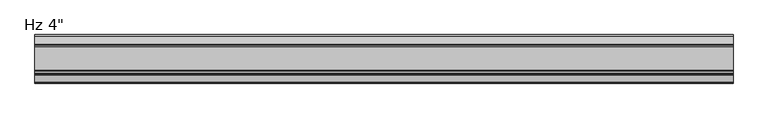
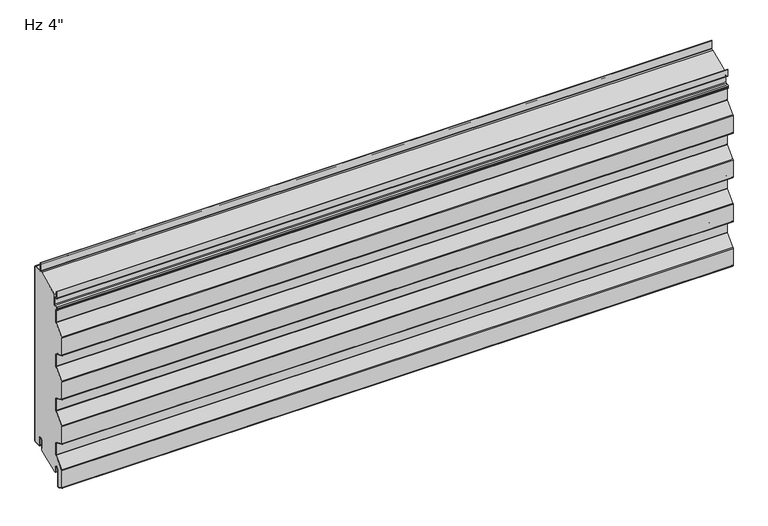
"""IFC4 building model written with IfcOpenShell, lengths in millimetres: plate geometry."""

import ifcopenshell
import ifcopenshell.guid

model = None  # the IFC model being written
_history = None  # IfcOwnerHistory: only IFC2X3 demands one
_inside = {}  # id of a spatial element -> (the spatial element, [elements in it])
_under = {}  # id of a project, library or spatial element -> (it, [spatial elements below it])
_declared = {}  # id of a project -> (the project, [libraries it declares])
_typed = {}  # id of a type object -> (the type object, [elements of that type])
_made_of = {}  # id of a material, layer set ... -> (it, [elements and type objects made of it])


def new_model(schema):
    """Start an empty IFC model of exactly this schema.

    Asked for "IFC4X3", IfcOpenShell would pick the latest addendum, in which some entities
    have other attributes; the version numbers below select the first issue.
    IFC2X3 requires an IfcOwnerHistory on every rooted entity: one is made here for all.
    """
    global model, _history
    if schema == "IFC4X3":
        model = ifcopenshell.file(schema_version=(4, 3, 0, 0))
    else:
        model = ifcopenshell.file(schema=schema)
    _inside.clear()
    _under.clear()
    _declared.clear()
    _typed.clear()
    _made_of.clear()
    _history = None
    if model.schema == "IFC2X3":
        org = make("IfcOrganization", Name="unknown")
        user = make(
            "IfcPersonAndOrganization",
            ThePerson=make("IfcPerson", FamilyName="unknown"),
            TheOrganization=org,
        )
        app = make(
            "IfcApplication",
            ApplicationDeveloper=org,
            Version="unknown",
            ApplicationFullName="unknown",
            ApplicationIdentifier="unknown",
        )
        _history = make(
            "IfcOwnerHistory",
            OwningUser=user,
            OwningApplication=app,
            ChangeAction="ADDED",
            CreationDate=0,
        )
    return model


def make(cls, **values):
    """One entity of the class cls with the attributes given. An attribute that is None is left unset."""
    return model.create_entity(
        cls, **{name: value for name, value in values.items() if value is not None}
    )


def rooted(cls, **values):
    """An entity with a GlobalId (a new one), such as an element, a storey or a relation."""
    return make(cls, GlobalId=ifcopenshell.guid.new(), OwnerHistory=_history, **values)


def si_unit(unit_type, name, prefix=None):
    """IfcSIUnit, for example si_unit("LENGTHUNIT", "METRE", prefix="MILLI")."""
    return make("IfcSIUnit", UnitType=unit_type, Prefix=prefix, Name=name)


def assignment(units):
    """IfcUnitAssignment: the units of a project."""
    return None if units is None else make("IfcUnitAssignment", Units=units)


def point(xyz):
    """IfcCartesianPoint."""
    return None if xyz is None else make("IfcCartesianPoint", Coordinates=xyz)


def direction(xyz):
    """IfcDirection."""
    return None if xyz is None else make("IfcDirection", DirectionRatios=xyz)


def frame(location, z_axis=None, x_axis=None):
    """IfcAxis2Placement3D, a coordinate frame: its origin and axes. An axis left out is left unset."""
    return make(
        "IfcAxis2Placement3D",
        Location=point(location),
        Axis=direction(z_axis),
        RefDirection=direction(x_axis),
    )


def frame_2d(location, x_axis=None):
    """IfcAxis2Placement2D, a coordinate frame in the plane: its origin and x axis."""
    return make(
        "IfcAxis2Placement2D", Location=point(location), RefDirection=direction(x_axis)
    )


def origin():
    """The frame at (0, 0, 0) with its axes left unset."""
    return frame((0.0, 0.0, 0.0))


def place(relative_to, where):
    """IfcLocalPlacement: puts the frame where relative to a parent placement (None: the world)."""
    return make(
        "IfcLocalPlacement", PlacementRelTo=relative_to, RelativePlacement=where
    )


def context(
    kind, dimensions, precision=None, world=None, true_north=None, identifier=None
):
    """IfcGeometricRepresentationContext, for example the 3D "Model" context."""
    return make(
        "IfcGeometricRepresentationContext",
        ContextIdentifier=identifier,
        ContextType=kind,
        CoordinateSpaceDimension=dimensions,
        Precision=precision,
        WorldCoordinateSystem=world,
        TrueNorth=true_north,
    )


def project(units=None, contexts=None):
    """IfcProject with its units and contexts."""
    return rooted(
        "IfcProject",
        Name="project",
        RepresentationContexts=contexts,
        UnitsInContext=assignment(units),
    )


def spatial(cls, under=None, at=None, **own):
    """A site, building, storey or space (cls), placed at a placement, below another one or the project."""
    s = rooted(cls, ObjectPlacement=at, **own)
    if under is not None:
        _under.setdefault(under.id(), (under, []))[1].append(s)
    return s


def polyline(points):
    """IfcPolyline through the points."""
    return make("IfcPolyline", Points=[point(p) for p in points])


def circle_curve(where, radius):
    """IfcCircle in the frame where."""
    return make("IfcCircle", Position=where, Radius=radius)


def trimmed(basis, trim1, trim2, sense, master):
    """IfcTrimmedCurve: the piece of a basis curve between two trims."""
    return make(
        "IfcTrimmedCurve",
        BasisCurve=basis,
        Trim1=trim1,
        Trim2=trim2,
        SenseAgreement=sense,
        MasterRepresentation=master,
    )


def segment(curve, same_sense, transition):
    """IfcCompositeCurveSegment."""
    return make(
        "IfcCompositeCurveSegment",
        Transition=transition,
        SameSense=same_sense,
        ParentCurve=curve,
    )


def composite_curve(segments, self_intersect=None):
    """IfcCompositeCurve: segments joined end to end."""
    return make("IfcCompositeCurve", Segments=segments, SelfIntersect=self_intersect)


def outline(outer, holes=None, kind="AREA"):
    """IfcArbitraryClosedProfileDef: a profile drawn as a closed curve; with holes, ...WithVoids."""
    if holes is None:
        return make("IfcArbitraryClosedProfileDef", ProfileType=kind, OuterCurve=outer)
    return make(
        "IfcArbitraryProfileDefWithVoids",
        ProfileType=kind,
        OuterCurve=outer,
        InnerCurves=holes,
    )


def extrude(swept, where, along, depth):
    """IfcExtrudedAreaSolid: the profile swept, set in the frame where, extruded along a direction by depth."""
    return make(
        "IfcExtrudedAreaSolid",
        SweptArea=swept,
        Position=where,
        ExtrudedDirection=direction(along),
        Depth=depth,
    )


def shape(context_of_items, identifier, shape_type, items):
    """IfcShapeRepresentation: the items that make up one representation, for example the "Body"."""
    return make(
        "IfcShapeRepresentation",
        ContextOfItems=context_of_items,
        RepresentationIdentifier=identifier,
        RepresentationType=shape_type,
        Items=items,
    )


def source(mapping_origin, context_of_items, identifier, shape_type, items):
    """IfcRepresentationMap: a shape defined once, which mapped items show again and again."""
    return make(
        "IfcRepresentationMap",
        MappingOrigin=mapping_origin,
        MappedRepresentation=shape(context_of_items, identifier, shape_type, items),
    )


def transform(
    local_origin,
    x_axis=None,
    y_axis=None,
    z_axis=None,
    scale=None,
    scale2=None,
    scale3=None,
    uniform=True,
):
    """IfcCartesianTransformationOperator3D, or its non-uniform kind. x_axis, y_axis, z_axis: its Axis1, 2, 3."""
    if uniform:
        return make(
            "IfcCartesianTransformationOperator3D",
            Axis1=direction(x_axis),
            Axis2=direction(y_axis),
            LocalOrigin=point(local_origin),
            Scale=scale,
            Axis3=direction(z_axis),
        )
    return make(
        "IfcCartesianTransformationOperator3DnonUniform",
        Axis1=direction(x_axis),
        Axis2=direction(y_axis),
        LocalOrigin=point(local_origin),
        Scale=scale,
        Axis3=direction(z_axis),
        Scale2=scale2,
        Scale3=scale3,
    )


def mapped(mapping_source, mapping_target):
    """IfcMappedItem: shows the shape of a source again, moved by a transform."""
    return make(
        "IfcMappedItem", MappingSource=mapping_source, MappingTarget=mapping_target
    )


def made_of(thing, what):
    """Note that an element or type object is made of a material, layer set ...; save() writes the relation."""
    if what is not None:
        _made_of.setdefault(what.id(), (what, []))[1].append(thing)
    return thing


def element(
    cls,
    number,
    at=None,
    inside=None,
    cuts=None,
    type_object=None,
    material=None,
    context=None,
    identifier="Body",
    shape_type=None,
    held_by="IfcProductDefinitionShape",
    body=None,
    shapes=None,
    **own,
):
    """One element of the class cls, such as IfcWall. Its Tag is "e" and its number.

    at: its placement. inside: the storey or other place that contains it. cuts: it is an
    opening in that element (IfcRelVoidsElement). A single representation is given by context,
    identifier, shape_type and body (its items); several are given by shapes. held_by: the class
    of the entity that holds the representations. save() writes the other relations.
    """
    e = rooted(cls, Tag="e%d" % number, ObjectPlacement=at, **own)
    if body is not None:
        shapes = [shape(context, identifier, shape_type, body)]
    if shapes is not None:
        e.Representation = make(held_by, Representations=shapes)
    if inside is not None:
        _inside.setdefault(inside.id(), (inside, []))[1].append(e)
    if cuts is not None:
        rooted(
            "IfcRelVoidsElement", RelatingBuildingElement=cuts, RelatedOpeningElement=e
        )
    if type_object is not None:
        _typed.setdefault(type_object.id(), (type_object, []))[1].append(e)
    return made_of(e, material)


def aggregate(whole, parts):
    """IfcRelAggregates: a whole, such as a stair, and the parts it consists of."""
    return rooted("IfcRelAggregates", RelatingObject=whole, RelatedObjects=parts)


def save(model, path):
    """Write the relations noted so far, then the file.

    IfcRelAggregates (storeys below a building ...), IfcRelContainedInSpatialStructure (elements
    in a storey), IfcRelDefinesByType, IfcRelAssociatesMaterial and IfcRelDeclares: one each for
    every whole, place, type object, material and project.
    """
    for whole, parts in _under.values():
        aggregate(whole, parts)
    for where, things in _inside.values():
        rooted(
            "IfcRelContainedInSpatialStructure",
            RelatedElements=things,
            RelatingStructure=where,
        )
    for kind, things in _typed.values():
        rooted("IfcRelDefinesByType", RelatedObjects=things, RelatingType=kind)
    for what, things in _made_of.values():
        rooted("IfcRelAssociatesMaterial", RelatedObjects=things, RelatingMaterial=what)
    for by, libraries in _declared.values():
        rooted("IfcRelDeclares", RelatingContext=by, RelatedDefinitions=libraries)
    model.write(path)


def plate_303e1e0d(model_context):
    return source(origin(), model_context, "Body", "SweptSolid", [
        extrude(outline(composite_curve([segment(polyline([(-26.4011912, 19.05), (-26.4011912, -3.1976612), (-74.633822, -23.01875), (-76.7886912, -23.01875), (-76.7886912, -11.90625)]), True, "CONTINUOUS"), segment(trimmed(circle_curve(frame_2d((-81.7574412, -11.90625)), 4.96875), [point((-76.7886912, -11.90625))], [point((-86.7261912, -11.90625))], True, "CARTESIAN"), True, "CONTINUOUS"), segment(polyline([(-86.7261912, -11.90625), (-86.7261912, -48.8194049)]), True, "CONTINUOUS"), segment(trimmed(circle_curve(frame_2d((-88.1074412, -48.8194049)), 1.38125), [point((-86.7261912, -48.8194049))], [point((-88.6666208, -50.0824052))], False, "CARTESIAN"), True, "CONTINUOUS"), segment(polyline([(-88.6666208, -50.0824052), (-99.7779296, -45.1629946)]), True, "CONTINUOUS"), segment(trimmed(circle_curve(frame_2d((-99.21875, -43.8999943)), 1.38125), [point((-99.7779296, -45.1629946))], [point((-100.6, -43.8999943))], False, "CARTESIAN"), True, "CONTINUOUS"), segment(polyline([(-100.6, -43.8999943), (-100.6, -5.0536946)]), True, "CONTINUOUS"), segment(trimmed(circle_curve(frame_2d((-98.5012, -5.0536946)), 2.0988), [point((-100.6, -5.0536946))], [point((-100.0092077, -3.5939431))], False, "CARTESIAN"), True, "CONTINUOUS"), segment(polyline([(-100.0092077, -3.5939431), (-79.8145567, 17.2682996)]), True, "CONTINUOUS"), segment(trimmed(circle_curve(frame_2d((-81.6737, 19.0679503)), 2.5875), [point((-79.8145567, 17.2682996))], [point((-79.0862, 19.0679503))], True, "CARTESIAN"), True, "CONTINUOUS"), segment(polyline([(-79.0862, 19.0679503), (-79.0862, 45.5917981)]), True, "CONTINUOUS"), segment(trimmed(circle_curve(frame_2d((-81.6737, 45.5917981)), 2.5875), [point((-79.0862, 45.5917981))], [point((-80.6261871, 47.9577806))], True, "CARTESIAN"), True, "CONTINUOUS"), segment(polyline([(-80.6261871, 47.9577806), (-99.7779296, 56.4370054)]), True, "CONTINUOUS"), segment(trimmed(circle_curve(frame_2d((-99.21875, 57.7000057)), 1.38125), [point((-99.7779296, 56.4370054))], [point((-100.6, 57.7000057))], False, "CARTESIAN"), True, "CONTINUOUS"), segment(polyline([(-100.6, 57.7000057), (-100.6, 96.8367131)]), True, "CONTINUOUS"), segment(trimmed(circle_curve(frame_2d((-99.21875, 96.8367131)), 1.38125), [point((-100.6, 96.8367131))], [point((-100.2111912, 97.7973962))], False, "CARTESIAN"), True, "CONTINUOUS"), segment(polyline([(-100.2111912, 97.7973962), (-79.8145567, 118.8682996)]), True, "CONTINUOUS"), segment(trimmed(circle_curve(frame_2d((-81.6737, 120.6679503)), 2.5875), [point((-79.8145567, 118.8682996))], [point((-79.0862, 120.6679503))], True, "CARTESIAN"), True, "CONTINUOUS"), segment(polyline([(-79.0862, 120.6679503), (-79.0862, 147.1917981)]), True, "CONTINUOUS"), segment(trimmed(circle_curve(frame_2d((-81.6737, 147.1917981)), 2.5875), [point((-79.0862, 147.1917981))], [point((-80.6261871, 149.5577806))], True, "CARTESIAN"), True, "CONTINUOUS"), segment(polyline([(-80.6261871, 149.5577806), (-99.7779296, 158.0370054)]), True, "CONTINUOUS"), segment(trimmed(circle_curve(frame_2d((-99.21875, 159.3000057)), 1.38125), [point((-99.7779296, 158.0370054))], [point((-100.6, 159.3000057))], False, "CARTESIAN"), True, "CONTINUOUS"), segment(polyline([(-100.6, 159.3000057), (-100.6, 198.4367131)]), True, "CONTINUOUS"), segment(trimmed(circle_curve(frame_2d((-99.21875, 198.4367131)), 1.38125), [point((-100.6, 198.4367131))], [point((-100.2111912, 199.3973962))], False, "CARTESIAN"), True, "CONTINUOUS"), segment(polyline([(-100.2111912, 199.3973962), (-79.8145567, 220.4682996)]), True, "CONTINUOUS"), segment(trimmed(circle_curve(frame_2d((-81.6737, 222.2679503)), 2.5875), [point((-79.8145567, 220.4682996))], [point((-79.0862, 222.2679503))], True, "CARTESIAN"), True, "CONTINUOUS"), segment(polyline([(-79.0862, 222.2679503), (-79.0862, 248.7917981)]), True, "CONTINUOUS"), segment(trimmed(circle_curve(frame_2d((-81.6737, 248.7917981)), 2.5875), [point((-79.0862, 248.7917981))], [point((-80.6261871, 251.1577806))], True, "CARTESIAN"), True, "CONTINUOUS"), segment(polyline([(-80.6261871, 251.1577806), (-99.7779296, 259.6370054)]), True, "CONTINUOUS"), segment(trimmed(circle_curve(frame_2d((-99.21875, 260.9000057)), 1.38125), [point((-99.7779296, 259.6370054))], [point((-100.6, 260.9000057))], False, "CARTESIAN"), True, "CONTINUOUS"), segment(polyline([(-100.6, 260.9000057), (-100.6, 300.0367131)]), True, "CONTINUOUS"), segment(trimmed(circle_curve(frame_2d((-99.21875, 300.0367131)), 1.38125), [point((-100.6, 300.0367131))], [point((-100.2111912, 300.9973962))], False, "CARTESIAN"), True, "CONTINUOUS"), segment(polyline([(-100.2111912, 300.9973962), (-79.8145567, 322.0682996)]), True, "CONTINUOUS"), segment(trimmed(circle_curve(frame_2d((-81.6737, 323.8679503)), 2.5875), [point((-79.8145567, 322.0682996))], [point((-79.0862, 323.8679503))], True, "CARTESIAN"), True, "CONTINUOUS"), segment(polyline([(-79.0862, 323.8679503), (-79.0862, 350.3917981)]), True, "CONTINUOUS"), segment(trimmed(circle_curve(frame_2d((-81.6737, 350.3917981)), 2.5875), [point((-79.0862, 350.3917981))], [point((-80.6261871, 352.7577806))], True, "CARTESIAN"), True, "CONTINUOUS"), segment(polyline([(-80.6261871, 352.7577806), (-82.3166208, 353.5062016)]), True, "CONTINUOUS"), segment(trimmed(circle_curve(frame_2d((-81.7574412, 354.7692019)), 1.38125), [point((-82.3166208, 353.5062016))], [point((-83.1386912, 354.7692019))], False, "CARTESIAN"), True, "CONTINUOUS"), segment(polyline([(-83.1386912, 354.7692019), (-83.1386912, 357.0967085)]), True, "CONTINUOUS"), segment(trimmed(circle_curve(frame_2d((-81.7574412, 357.0967085)), 1.38125), [point((-83.1386912, 357.0967085))], [point((-81.8297302, 358.4760655))], False, "CARTESIAN"), True, "CONTINUOUS"), segment(polyline([(-81.8297302, 358.4760655), (-76.0657719, 358.7781418)]), True, "CONTINUOUS"), segment(trimmed(circle_curve(frame_2d((-76.2011912, 361.3620957)), 2.5875), [point((-76.0657719, 358.7781418))], [point((-73.6136912, 361.3620957))], True, "CARTESIAN"), True, "CONTINUOUS"), segment(polyline([(-73.6136912, 361.3620957), (-73.6136912, 383.7892934), (-24.8719682, 404.60625), (-2.3824412, 404.60625)]), True, "CONTINUOUS"), segment(trimmed(circle_curve(frame_2d((-2.3824412, 403.225)), 1.38125), [point((-2.3824412, 404.60625))], [point((-1.0011912, 403.225))], False, "CARTESIAN"), True, "CONTINUOUS"), segment(polyline([(-1.0011912, 403.225), (-1.0011912, 3.175)]), True, "CONTINUOUS"), segment(trimmed(circle_curve(frame_2d((-2.3824412, 3.175)), 1.38125), [point((-1.0011912, 3.175))], [point((-2.3824412, 1.79375))], False, "CARTESIAN"), True, "CONTINUOUS"), segment(polyline([(-2.3824412, 1.79375), (-15.0824412, 1.79375)]), True, "CONTINUOUS"), segment(trimmed(circle_curve(frame_2d((-15.0824412, 3.175)), 1.38125), [point((-15.0824412, 1.79375))], [point((-16.4636912, 3.175))], False, "CARTESIAN"), True, "CONTINUOUS"), segment(polyline([(-16.4636912, 3.175), (-16.4636912, 19.05)]), True, "CONTINUOUS"), segment(trimmed(circle_curve(frame_2d((-21.4324412, 19.05)), 4.96875), [point((-16.4636912, 19.05))], [point((-26.4011912, 19.05))], True, "CARTESIAN"), True, "CONTINUOUS")], self_intersect=False)), frame((-730.0, 0.0, 0.0), z_axis=(1.0, 0.0, 0.0), x_axis=(0.0, 1.0, 0.0)), (0.0, 0.0, 1.0), 1460.0),
        extrude(outline(composite_curve([segment(polyline([(-25.4, 0.79375), (-26.4, 0.79375), (-26.4, 19.05)]), True, "CONTINUOUS"), segment(trimmed(circle_curve(frame_2d((-21.43125, 19.05)), 4.96875), [point((-26.4, 19.05))], [point((-16.4625, 19.05))], False, "CARTESIAN"), True, "CONTINUOUS"), segment(polyline([(-16.4625, 19.05), (-16.4625, 3.175)]), True, "CONTINUOUS"), segment(trimmed(circle_curve(frame_2d((-15.08125, 3.175)), 1.38125), [point((-16.4625, 3.175))], [point((-15.08125, 1.79375))], True, "CARTESIAN"), True, "CONTINUOUS"), segment(polyline([(-15.08125, 1.79375), (-2.38125, 1.79375)]), True, "CONTINUOUS"), segment(trimmed(circle_curve(frame_2d((-2.38125, 3.175)), 1.38125), [point((-2.38125, 1.79375))], [point((-1.0, 3.175))], True, "CARTESIAN"), True, "CONTINUOUS"), segment(polyline([(-1.0, 3.175), (-1.0, 403.225)]), True, "CONTINUOUS"), segment(trimmed(circle_curve(frame_2d((-2.38125, 403.225)), 1.38125), [point((-1.0, 403.225))], [point((-2.38125, 404.60625))], True, "CARTESIAN"), True, "CONTINUOUS"), segment(polyline([(-2.38125, 404.60625), (-19.446875, 404.60625)]), True, "CONTINUOUS"), segment(trimmed(circle_curve(frame_2d((-19.446875, 407.19375)), 2.5875), [point((-19.446875, 404.60625))], [point((-22.034375, 407.19375))], False, "CARTESIAN"), True, "CONTINUOUS"), segment(polyline([(-22.034375, 407.19375), (-22.034375, 424.65625), (-21.034375, 424.65625), (-21.034375, 407.19375)]), True, "CONTINUOUS"), segment(trimmed(circle_curve(frame_2d((-19.446875, 407.19375)), 1.5875), [point((-21.034375, 407.19375))], [point((-19.446875, 405.60625))], True, "CARTESIAN"), True, "CONTINUOUS"), segment(polyline([(-19.446875, 405.60625), (-2.38125, 405.60625)]), True, "CONTINUOUS"), segment(trimmed(circle_curve(frame_2d((-2.38125, 403.225)), 2.38125), [point((-2.38125, 405.60625))], [point((0.0, 403.225))], False, "CARTESIAN"), True, "CONTINUOUS"), segment(polyline([(0.0, 403.225), (0.0, 3.175)]), True, "CONTINUOUS"), segment(trimmed(circle_curve(frame_2d((-2.38125, 3.175)), 2.38125), [point((0.0, 3.175))], [point((-2.38125, 0.79375))], False, "CARTESIAN"), True, "CONTINUOUS"), segment(polyline([(-2.38125, 0.79375), (-15.08125, 0.79375)]), True, "CONTINUOUS"), segment(trimmed(circle_curve(frame_2d((-15.08125, 3.175)), 2.38125), [point((-15.08125, 0.79375))], [point((-17.4625, 3.175))], False, "CARTESIAN"), True, "CONTINUOUS"), segment(polyline([(-17.4625, 3.175), (-17.4625, 19.05)]), True, "CONTINUOUS"), segment(trimmed(circle_curve(frame_2d((-21.43125, 19.05)), 3.96875), [point((-17.4625, 19.05))], [point((-25.4, 19.05))], True, "CARTESIAN"), True, "CONTINUOUS"), segment(polyline([(-25.4, 19.05), (-25.4, 0.79375)]), True, "CONTINUOUS")], self_intersect=False)), frame((-730.0, 0.0, 0.0), z_axis=(1.0, 0.0, 0.0), x_axis=(0.0, 1.0, 0.0)), (0.0, 0.0, 1.0), 1460.0),
        extrude(outline(composite_curve([segment(polyline([(-85.7261912, -11.90625), (-85.7261912, -48.8194049)]), True, "CONTINUOUS"), segment(trimmed(circle_curve(frame_2d((-88.1074412, -48.8194049)), 2.38125), [point((-85.7261912, -48.8194049))], [point((-89.0714567, -50.9967946))], False, "CARTESIAN"), True, "CONTINUOUS"), segment(polyline([(-89.0714567, -50.9967946), (-100.1827655, -46.0773839)]), True, "CONTINUOUS"), segment(trimmed(circle_curve(frame_2d((-99.21875, -43.8999943)), 2.38125), [point((-100.1827655, -46.0773839))], [point((-101.6, -43.8999943))], False, "CARTESIAN"), True, "CONTINUOUS"), segment(polyline([(-101.6, -43.8999943), (-101.6, -5.0536946)]), True, "CONTINUOUS"), segment(trimmed(circle_curve(frame_2d((-98.5012, -5.0536946)), 3.0988), [point((-101.6, -5.0536946))], [point((-100.7277172, -2.8984259))], False, "CARTESIAN"), True, "CONTINUOUS"), segment(polyline([(-100.7277172, -2.8984259), (-80.5330662, 17.9638168)]), True, "CONTINUOUS"), segment(trimmed(circle_curve(frame_2d((-81.6737, 19.0679503)), 1.5875), [point((-80.5330662, 17.9638168))], [point((-80.0862, 19.0679503))], True, "CARTESIAN"), True, "CONTINUOUS"), segment(polyline([(-80.0862, 19.0679503), (-80.0862, 45.5917981)]), True, "CONTINUOUS"), segment(trimmed(circle_curve(frame_2d((-81.6737, 45.5917981)), 1.5875), [point((-80.0862, 45.5917981))], [point((-81.031023, 47.0433912))], True, "CARTESIAN"), True, "CONTINUOUS"), segment(polyline([(-81.031023, 47.0433912), (-100.1827655, 55.5226161)]), True, "CONTINUOUS"), segment(trimmed(circle_curve(frame_2d((-99.21875, 57.7000057)), 2.38125), [point((-100.1827655, 55.5226161))], [point((-101.6, 57.7000057))], False, "CARTESIAN"), True, "CONTINUOUS"), segment(polyline([(-101.6, 57.7000057), (-101.6, 96.8367131)]), True, "CONTINUOUS"), segment(trimmed(circle_curve(frame_2d((-99.21875, 96.8367131)), 2.38125), [point((-101.6, 96.8367131))], [point((-100.9297007, 98.4929134))], False, "CARTESIAN"), True, "CONTINUOUS"), segment(polyline([(-100.9297007, 98.4929134), (-80.5330662, 119.5638168)]), True, "CONTINUOUS"), segment(trimmed(circle_curve(frame_2d((-81.6737, 120.6679503)), 1.5875), [point((-80.5330662, 119.5638168))], [point((-80.0862, 120.6679503))], True, "CARTESIAN"), True, "CONTINUOUS"), segment(polyline([(-80.0862, 120.6679503), (-80.0862, 147.1917981)]), True, "CONTINUOUS"), segment(trimmed(circle_curve(frame_2d((-81.6737, 147.1917981)), 1.5875), [point((-80.0862, 147.1917981))], [point((-81.031023, 148.6433912))], True, "CARTESIAN"), True, "CONTINUOUS"), segment(polyline([(-81.031023, 148.6433912), (-100.1827655, 157.1226161)]), True, "CONTINUOUS"), segment(trimmed(circle_curve(frame_2d((-99.21875, 159.3000057)), 2.38125), [point((-100.1827655, 157.1226161))], [point((-101.6, 159.3000057))], False, "CARTESIAN"), True, "CONTINUOUS"), segment(polyline([(-101.6, 159.3000057), (-101.6, 198.4367131)]), True, "CONTINUOUS"), segment(trimmed(circle_curve(frame_2d((-99.21875, 198.4367131)), 2.38125), [point((-101.6, 198.4367131))], [point((-100.9297007, 200.0929134))], False, "CARTESIAN"), True, "CONTINUOUS"), segment(polyline([(-100.9297007, 200.0929134), (-80.5330662, 221.1638168)]), True, "CONTINUOUS"), segment(trimmed(circle_curve(frame_2d((-81.6737, 222.2679503)), 1.5875), [point((-80.5330662, 221.1638168))], [point((-80.0862, 222.2679503))], True, "CARTESIAN"), True, "CONTINUOUS"), segment(polyline([(-80.0862, 222.2679503), (-80.0862, 248.7917981)]), True, "CONTINUOUS"), segment(trimmed(circle_curve(frame_2d((-81.6737, 248.7917981)), 1.5875), [point((-80.0862, 248.7917981))], [point((-81.031023, 250.2433912))], True, "CARTESIAN"), True, "CONTINUOUS"), segment(polyline([(-81.031023, 250.2433912), (-100.1827655, 258.7226161)]), True, "CONTINUOUS"), segment(trimmed(circle_curve(frame_2d((-99.21875, 260.9000057)), 2.38125), [point((-100.1827655, 258.7226161))], [point((-101.6, 260.9000057))], False, "CARTESIAN"), True, "CONTINUOUS"), segment(polyline([(-101.6, 260.9000057), (-101.6, 300.0367131)]), True, "CONTINUOUS"), segment(trimmed(circle_curve(frame_2d((-99.21875, 300.0367131)), 2.38125), [point((-101.6, 300.0367131))], [point((-100.9297007, 301.6929134))], False, "CARTESIAN"), True, "CONTINUOUS"), segment(polyline([(-100.9297007, 301.6929134), (-80.5330662, 322.7638168)]), True, "CONTINUOUS"), segment(trimmed(circle_curve(frame_2d((-81.6737, 323.8679503)), 1.5875), [point((-80.5330662, 322.7638168))], [point((-80.0862, 323.8679503))], True, "CARTESIAN"), True, "CONTINUOUS"), segment(polyline([(-80.0862, 323.8679503), (-80.0862, 350.3917981)]), True, "CONTINUOUS"), segment(trimmed(circle_curve(frame_2d((-81.6737, 350.3917981)), 1.5875), [point((-80.0862, 350.3917981))], [point((-81.031023, 351.8433912))], True, "CARTESIAN"), True, "CONTINUOUS"), segment(polyline([(-81.031023, 351.8433912), (-82.7214567, 352.5918123)]), True, "CONTINUOUS"), segment(trimmed(circle_curve(frame_2d((-81.7574412, 354.7692019)), 2.38125), [point((-82.7214567, 352.5918123))], [point((-84.1386912, 354.7692019))], False, "CARTESIAN"), True, "CONTINUOUS"), segment(polyline([(-84.1386912, 354.7692019), (-84.1386912, 357.0967085)]), True, "CONTINUOUS"), segment(trimmed(circle_curve(frame_2d((-81.7574412, 357.0967085)), 2.38125), [point((-84.1386912, 357.0967085))], [point((-81.8820662, 359.4746951))], False, "CARTESIAN"), True, "CONTINUOUS"), segment(polyline([(-81.8820662, 359.4746951), (-76.1181078, 359.7767713)]), True, "CONTINUOUS"), segment(trimmed(circle_curve(frame_2d((-76.2011912, 361.3620957)), 1.5875), [point((-76.1181078, 359.7767713))], [point((-74.6136912, 361.3620957))], True, "CARTESIAN"), True, "CONTINUOUS"), segment(polyline([(-74.6136912, 361.3620957), (-74.6136912, 376.2375)]), True, "CONTINUOUS"), segment(trimmed(circle_curve(frame_2d((-76.2011912, 376.2375)), 1.5875), [point((-74.6136912, 376.2375))], [point((-76.2011912, 377.825))], True, "CARTESIAN"), True, "CONTINUOUS"), segment(polyline([(-76.2011912, 377.825), (-79.7730662, 377.825)]), True, "CONTINUOUS"), segment(trimmed(circle_curve(frame_2d((-79.7730662, 380.20625)), 2.38125), [point((-79.7730662, 377.825))], [point((-82.1543162, 380.20625))], False, "CARTESIAN"), True, "CONTINUOUS"), segment(polyline([(-82.1543162, 380.20625), (-82.1543162, 394.49375), (-81.1543162, 394.49375), (-81.1543162, 380.20625)]), True, "CONTINUOUS"), segment(trimmed(circle_curve(frame_2d((-79.7730662, 380.20625)), 1.38125), [point((-81.1543162, 380.20625))], [point((-79.7730662, 378.825))], True, "CARTESIAN"), True, "CONTINUOUS"), segment(polyline([(-79.7730662, 378.825), (-76.2011912, 378.825)]), True, "CONTINUOUS"), segment(trimmed(circle_curve(frame_2d((-76.2011912, 376.2375)), 2.5875), [point((-76.2011912, 378.825))], [point((-73.6136912, 376.2375))], False, "CARTESIAN"), True, "CONTINUOUS"), segment(polyline([(-73.6136912, 376.2375), (-73.6136912, 361.3620957)]), True, "CONTINUOUS"), segment(trimmed(circle_curve(frame_2d((-76.2011912, 361.3620957)), 2.5875), [point((-73.6136912, 361.3620957))], [point((-76.0657719, 358.7781418))], False, "CARTESIAN"), True, "CONTINUOUS"), segment(polyline([(-76.0657719, 358.7781418), (-81.8297302, 358.4760655)]), True, "CONTINUOUS"), segment(trimmed(circle_curve(frame_2d((-81.7574412, 357.0967085)), 1.38125), [point((-81.8297302, 358.4760655))], [point((-83.1386912, 357.0967085))], True, "CARTESIAN"), True, "CONTINUOUS"), segment(polyline([(-83.1386912, 357.0967085), (-83.1386912, 354.7692019)]), True, "CONTINUOUS"), segment(trimmed(circle_curve(frame_2d((-81.7574412, 354.7692019)), 1.38125), [point((-83.1386912, 354.7692019))], [point((-82.3166208, 353.5062016))], True, "CARTESIAN"), True, "CONTINUOUS"), segment(polyline([(-82.3166208, 353.5062016), (-80.6261871, 352.7577806)]), True, "CONTINUOUS"), segment(trimmed(circle_curve(frame_2d((-81.6737, 350.3917981)), 2.5875), [point((-80.6261871, 352.7577806))], [point((-79.0862, 350.3917981))], False, "CARTESIAN"), True, "CONTINUOUS"), segment(polyline([(-79.0862, 350.3917981), (-79.0862, 323.8679503)]), True, "CONTINUOUS"), segment(trimmed(circle_curve(frame_2d((-81.6737, 323.8679503)), 2.5875), [point((-79.0862, 323.8679503))], [point((-79.8145567, 322.0682996))], False, "CARTESIAN"), True, "CONTINUOUS"), segment(polyline([(-79.8145567, 322.0682996), (-100.2111912, 300.9973962)]), True, "CONTINUOUS"), segment(trimmed(circle_curve(frame_2d((-99.21875, 300.0367131)), 1.38125), [point((-100.2111912, 300.9973962))], [point((-100.6, 300.0367131))], True, "CARTESIAN"), True, "CONTINUOUS"), segment(polyline([(-100.6, 300.0367131), (-100.6, 260.9000057)]), True, "CONTINUOUS"), segment(trimmed(circle_curve(frame_2d((-99.21875, 260.9000057)), 1.38125), [point((-100.6, 260.9000057))], [point((-99.7779296, 259.6370054))], True, "CARTESIAN"), True, "CONTINUOUS"), segment(polyline([(-99.7779296, 259.6370054), (-80.6261871, 251.1577806)]), True, "CONTINUOUS"), segment(trimmed(circle_curve(frame_2d((-81.6737, 248.7917981)), 2.5875), [point((-80.6261871, 251.1577806))], [point((-79.0862, 248.7917981))], False, "CARTESIAN"), True, "CONTINUOUS"), segment(polyline([(-79.0862, 248.7917981), (-79.0862, 222.2679503)]), True, "CONTINUOUS"), segment(trimmed(circle_curve(frame_2d((-81.6737, 222.2679503)), 2.5875), [point((-79.0862, 222.2679503))], [point((-79.8145567, 220.4682996))], False, "CARTESIAN"), True, "CONTINUOUS"), segment(polyline([(-79.8145567, 220.4682996), (-100.2111912, 199.3973962)]), True, "CONTINUOUS"), segment(trimmed(circle_curve(frame_2d((-99.21875, 198.4367131)), 1.38125), [point((-100.2111912, 199.3973962))], [point((-100.6, 198.4367131))], True, "CARTESIAN"), True, "CONTINUOUS"), segment(polyline([(-100.6, 198.4367131), (-100.6, 159.3000057)]), True, "CONTINUOUS"), segment(trimmed(circle_curve(frame_2d((-99.21875, 159.3000057)), 1.38125), [point((-100.6, 159.3000057))], [point((-99.7779296, 158.0370054))], True, "CARTESIAN"), True, "CONTINUOUS"), segment(polyline([(-99.7779296, 158.0370054), (-80.6261871, 149.5577806)]), True, "CONTINUOUS"), segment(trimmed(circle_curve(frame_2d((-81.6737, 147.1917981)), 2.5875), [point((-80.6261871, 149.5577806))], [point((-79.0862, 147.1917981))], False, "CARTESIAN"), True, "CONTINUOUS"), segment(polyline([(-79.0862, 147.1917981), (-79.0862, 120.6679503)]), True, "CONTINUOUS"), segment(trimmed(circle_curve(frame_2d((-81.6737, 120.6679503)), 2.5875), [point((-79.0862, 120.6679503))], [point((-79.8145567, 118.8682996))], False, "CARTESIAN"), True, "CONTINUOUS"), segment(polyline([(-79.8145567, 118.8682996), (-100.2111912, 97.7973962)]), True, "CONTINUOUS"), segment(trimmed(circle_curve(frame_2d((-99.21875, 96.8367131)), 1.38125), [point((-100.2111912, 97.7973962))], [point((-100.6, 96.8367131))], True, "CARTESIAN"), True, "CONTINUOUS"), segment(polyline([(-100.6, 96.8367131), (-100.6, 57.7000057)]), True, "CONTINUOUS"), segment(trimmed(circle_curve(frame_2d((-99.21875, 57.7000057)), 1.38125), [point((-100.6, 57.7000057))], [point((-99.7779296, 56.4370054))], True, "CARTESIAN"), True, "CONTINUOUS"), segment(polyline([(-99.7779296, 56.4370054), (-80.6261871, 47.9577806)]), True, "CONTINUOUS"), segment(trimmed(circle_curve(frame_2d((-81.6737, 45.5917981)), 2.5875), [point((-80.6261871, 47.9577806))], [point((-79.0862, 45.5917981))], False, "CARTESIAN"), True, "CONTINUOUS"), segment(polyline([(-79.0862, 45.5917981), (-79.0862, 19.0679503)]), True, "CONTINUOUS"), segment(trimmed(circle_curve(frame_2d((-81.6737, 19.0679503)), 2.5875), [point((-79.0862, 19.0679503))], [point((-79.8145567, 17.2682996))], False, "CARTESIAN"), True, "CONTINUOUS"), segment(polyline([(-79.8145567, 17.2682996), (-100.0092077, -3.5939431)]), True, "CONTINUOUS"), segment(trimmed(circle_curve(frame_2d((-98.5012, -5.0536946)), 2.0988), [point((-100.0092077, -3.5939431))], [point((-100.6, -5.0536946))], True, "CARTESIAN"), True, "CONTINUOUS"), segment(polyline([(-100.6, -5.0536946), (-100.6, -43.8999943)]), True, "CONTINUOUS"), segment(trimmed(circle_curve(frame_2d((-99.21875, -43.8999943)), 1.38125), [point((-100.6, -43.8999943))], [point((-99.7779296, -45.1629946))], True, "CARTESIAN"), True, "CONTINUOUS"), segment(polyline([(-99.7779296, -45.1629946), (-88.6666208, -50.0824052)]), True, "CONTINUOUS"), segment(trimmed(circle_curve(frame_2d((-88.1074412, -48.8194049)), 1.38125), [point((-88.6666208, -50.0824052))], [point((-86.7261912, -48.8194049))], True, "CARTESIAN"), True, "CONTINUOUS"), segment(polyline([(-86.7261912, -48.8194049), (-86.7261912, -11.90625)]), True, "CONTINUOUS"), segment(trimmed(circle_curve(frame_2d((-81.7574412, -11.90625)), 4.96875), [point((-86.7261912, -11.90625))], [point((-76.7886912, -11.90625))], False, "CARTESIAN"), True, "CONTINUOUS"), segment(polyline([(-76.7886912, -11.90625), (-76.7886912, -23.01875), (-77.7886912, -23.01875), (-77.7886912, -11.90625)]), True, "CONTINUOUS"), segment(trimmed(circle_curve(frame_2d((-81.7574412, -11.90625)), 3.96875), [point((-77.7886912, -11.90625))], [point((-85.7261912, -11.90625))], True, "CARTESIAN"), True, "CONTINUOUS")], self_intersect=False)), frame((-730.0, 0.0, 0.0), z_axis=(1.0, 0.0, 0.0), x_axis=(0.0, 1.0, 0.0)), (0.0, 0.0, 1.0), 1460.0),
    ])


if __name__ == "__main__":
    model = new_model("IFC4")
    model_context = context("Model", 3, world=origin())
    ifc_project = project(units=[si_unit("LENGTHUNIT", "METRE", prefix="MILLI")], contexts=[model_context])
    site = spatial("IfcSite", under=ifc_project)
    building = spatial("IfcBuilding", under=site)
    placement = place(None, origin())
    plate_shape = plate_303e1e0d(model_context)
    element("IfcPlate", 1, ObjectType="KIP-16-DWR-R19-CP-Hz-S : Hz 4\"", at=placement, inside=building, context=model_context, shape_type="MappedRepresentation", body=[
        mapped(plate_shape, transform((0.0, 0.0, 0.0), x_axis=(1.0, 0.0, 0.0), y_axis=(0.0, 1.0, 0.0), z_axis=(0.0, 0.0, 1.0))),
    ])
    save(model, "model.ifc")
